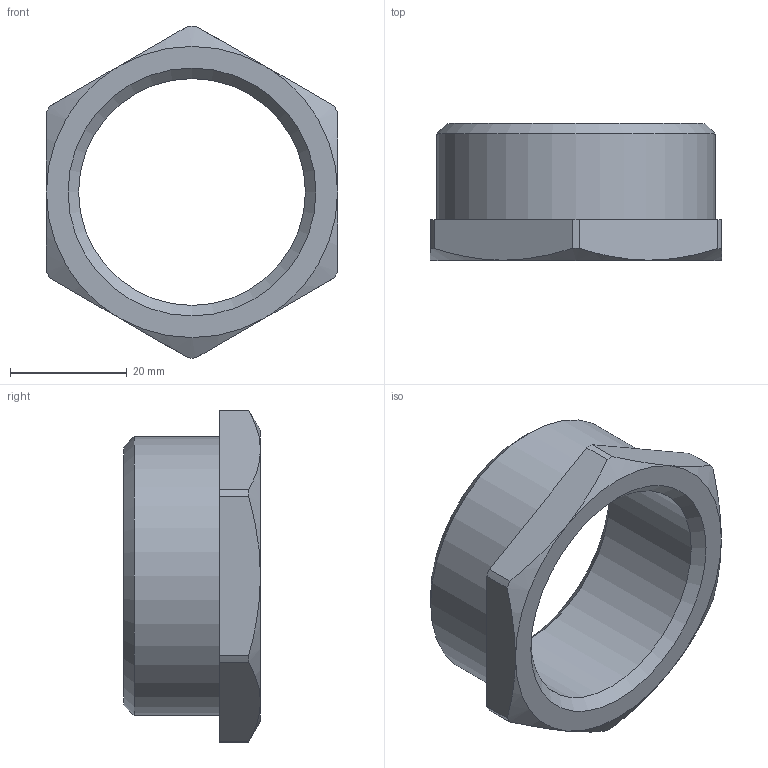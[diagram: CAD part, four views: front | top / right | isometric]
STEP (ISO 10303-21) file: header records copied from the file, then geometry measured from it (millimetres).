
FILE_DESCRIPTION(('STEP AP203'), '1');
FILE_NAME('ÂÐ.753128.038 - VTr.581.N.0807 Ôèò. ðåçüá', '2024-07-04T13:31:02', ('Boss'), (''), 'C3D Converter', 'C3D Toolkit', '');
FILE_SCHEMA(('CONFIG_CONTROL_DESIGN'));
Length unit declared in the file: millimetre
Products named in the file (1): ВР.753128.038
Bounding box: 50 x 23.5 x 57 mm (x, y, z)
Volume: 15974.8 mm3; surface area: 7991.1 mm2
Topology: 1 solids, 1 shells, 26 faces, 60 edges, 37 vertices
Faces by surface type: plane 9, cone 9, cylinder 8
Full cylindrical faces by diameter (mm): 38.953 x1, 47.803 x1
Entity records: 965 total; most frequent: CARTESIAN_POINT 399, DIRECTION 114, ORIENTED_EDGE 102, EDGE_CURVE 51, AXIS2_PLACEMENT_3D 48, VERTEX_POINT 35, EDGE_LOOP 32, ADVANCED_FACE 24
